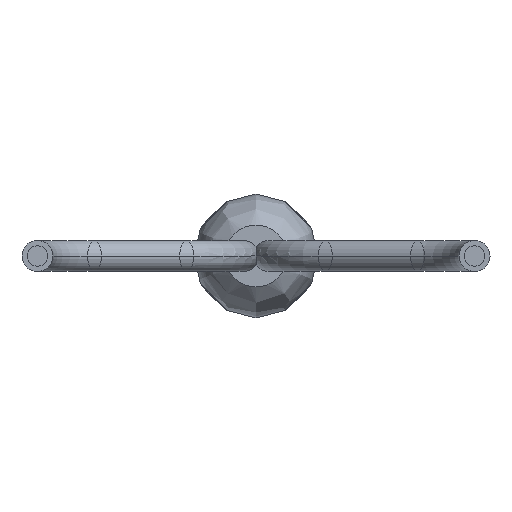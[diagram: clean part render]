
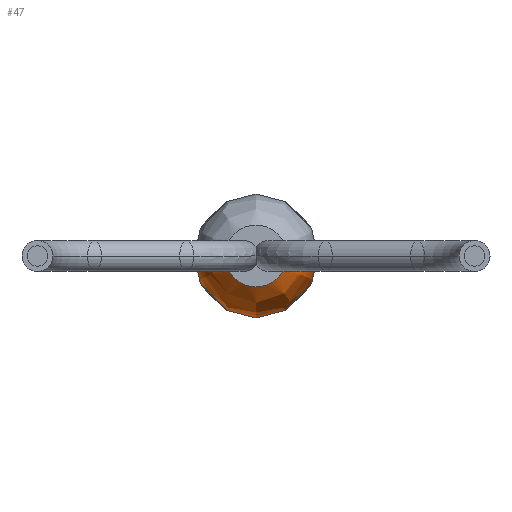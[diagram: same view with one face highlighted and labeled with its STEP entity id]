
A CAD part, left-side view. The second image highlights one B-rep face of the part: STEP entity #47.
In plain terms, the highlighted free-form (B-spline) face has degree [3, 3] with [6, 4] control points.
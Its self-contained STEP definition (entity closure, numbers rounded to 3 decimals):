
#1 = EDGE_CURVE ( 'NONE', #335, #409, #276, .T. ) ;
#11 = EDGE_CURVE ( 'NONE', #558, #335, #393, .T. ) ;
#33 = CARTESIAN_POINT ( 'NONE',  ( 1.447, 0.471, -0.942 ) ) ;
#41 = CARTESIAN_POINT ( 'NONE',  ( 0., -0.3, 0. ) ) ;
#43 = CARTESIAN_POINT ( 'NONE',  ( 0.768, -0.661, 0. ) ) ;
#47 = ADVANCED_FACE ( 'NONE', ( #260 ), #258, .F. ) ;
#101 = CARTESIAN_POINT ( 'NONE',  ( 2., 0., 0. ) ) ;
#106 = CARTESIAN_POINT ( 'NONE',  ( 1.447, 0.471, 0. ) ) ;
#139 = CARTESIAN_POINT ( 'NONE',  ( 1.986, -0.226, 0. ) ) ;
#164 = EDGE_CURVE ( 'NONE', #558, #409, #716, .T. ) ;
#174 = CARTESIAN_POINT ( 'NONE',  ( 1.986, -0.226, -0.452 ) ) ;
#176 = CARTESIAN_POINT ( 'NONE',  ( 1.986, 0.226, 0. ) ) ;
#181 = DIRECTION ( 'NONE',  ( 0., 0., 1. ) ) ;
#186 = CARTESIAN_POINT ( 'NONE',  ( 1.986, 0.226, -0.452 ) ) ;
#195 = CARTESIAN_POINT ( 'NONE',  ( 0., -0.3, -0.6 ) ) ;
#201 = CARTESIAN_POINT ( 'NONE',  ( 0.115, -0.552, 0. ) ) ;
#246 = CARTESIAN_POINT ( 'NONE',  ( 2., 0., 0. ) ) ;
#258 =( BOUNDED_SURFACE ( )  B_SPLINE_SURFACE ( 3, 3, ( 
 ( #101, #246, #818, #529 ),
 ( #805, #186, #174, #460 ),
 ( #681, #33, #758, #899 ),
 ( #472, #763, #396, #43 ),
 ( #282, #621, #557, #618 ),
 ( #485, #294, #195, #774 ) ),
 .UNSPECIFIED., .F., .F., .F. ) 
 B_SPLINE_SURFACE_WITH_KNOTS ( ( 4, 1, 1, 4 ),
 ( 4, 4 ),
 ( 0., 0.277, 0.656, 1. ),
 ( 0., 1. ),
 .UNSPECIFIED. ) 
 GEOMETRIC_REPRESENTATION_ITEM ( )  RATIONAL_B_SPLINE_SURFACE ( (
 ( 1., 0.333, 0.333, 1.),
 ( 1., 0.333, 0.333, 1.),
 ( 1., 0.333, 0.333, 1.),
 ( 1., 0.333, 0.333, 1.),
 ( 1., 0.333, 0.333, 1.),
 ( 1., 0.333, 0.333, 1.) ) ) 
 REPRESENTATION_ITEM ( '' )  SURFACE ( )  );
#260 = FACE_OUTER_BOUND ( 'NONE', #781, .T. ) ;
#276 = CIRCLE ( 'NONE', #509, 0.3 ) ;
#282 = CARTESIAN_POINT ( 'NONE',  ( 0.115, 0.552, 0. ) ) ;
#294 = CARTESIAN_POINT ( 'NONE',  ( 0., 0.3, -0.6 ) ) ;
#335 = VERTEX_POINT ( 'NONE', #660 ) ;
#344 = ORIENTED_EDGE ( 'NONE', *, *, #11, .F. ) ;
#378 = ORIENTED_EDGE ( 'NONE', *, *, #1, .F. ) ;
#393 = B_SPLINE_CURVE_WITH_KNOTS ( 'NONE', 3,
 ( #806, #176, #106, #811, #601, #746 ),
 .UNSPECIFIED., .F., .F.,
 ( 4, 1, 1, 4 ),
 ( 0., 0.277, 0.656, 1. ),
 .UNSPECIFIED. ) ;
#396 = CARTESIAN_POINT ( 'NONE',  ( 0.768, -0.661, -1.322 ) ) ;
#409 = VERTEX_POINT ( 'NONE', #451 ) ;
#451 = CARTESIAN_POINT ( 'NONE',  ( 0., -0.3, 0. ) ) ;
#460 = CARTESIAN_POINT ( 'NONE',  ( 1.986, -0.226, 0. ) ) ;
#472 = CARTESIAN_POINT ( 'NONE',  ( 0.768, 0.661, 0. ) ) ;
#485 = CARTESIAN_POINT ( 'NONE',  ( 0., 0.3, 0. ) ) ;
#509 = AXIS2_PLACEMENT_3D ( 'NONE', #530, #587, #181 ) ;
#526 = ORIENTED_EDGE ( 'NONE', *, *, #164, .T. ) ;
#529 = CARTESIAN_POINT ( 'NONE',  ( 2., 0., 0. ) ) ;
#530 = CARTESIAN_POINT ( 'NONE',  ( 0., 0., 0. ) ) ;
#556 = CARTESIAN_POINT ( 'NONE',  ( 1.447, -0.471, 0. ) ) ;
#557 = CARTESIAN_POINT ( 'NONE',  ( 0.115, -0.552, -1.104 ) ) ;
#558 = VERTEX_POINT ( 'NONE', #783 ) ;
#587 = DIRECTION ( 'NONE',  ( -1., 0., 0. ) ) ;
#601 = CARTESIAN_POINT ( 'NONE',  ( 0.115, 0.552, 0. ) ) ;
#618 = CARTESIAN_POINT ( 'NONE',  ( 0.115, -0.552, 0. ) ) ;
#621 = CARTESIAN_POINT ( 'NONE',  ( 0.115, 0.552, -1.104 ) ) ;
#660 = CARTESIAN_POINT ( 'NONE',  ( 0., 0.3, 0. ) ) ;
#681 = CARTESIAN_POINT ( 'NONE',  ( 1.447, 0.471, 0. ) ) ;
#716 = B_SPLINE_CURVE_WITH_KNOTS ( 'NONE', 3,
 ( #912, #139, #556, #838, #201, #41 ),
 .UNSPECIFIED., .F., .F.,
 ( 4, 1, 1, 4 ),
 ( 0., 0.277, 0.656, 1. ),
 .UNSPECIFIED. ) ;
#746 = CARTESIAN_POINT ( 'NONE',  ( 0., 0.3, 0. ) ) ;
#758 = CARTESIAN_POINT ( 'NONE',  ( 1.447, -0.471, -0.942 ) ) ;
#763 = CARTESIAN_POINT ( 'NONE',  ( 0.768, 0.661, -1.322 ) ) ;
#774 = CARTESIAN_POINT ( 'NONE',  ( 0., -0.3, 0. ) ) ;
#781 = EDGE_LOOP ( 'NONE', ( #344, #526, #378 ) ) ;
#783 = CARTESIAN_POINT ( 'NONE',  ( 2., 0., 0. ) ) ;
#805 = CARTESIAN_POINT ( 'NONE',  ( 1.986, 0.226, 0. ) ) ;
#806 = CARTESIAN_POINT ( 'NONE',  ( 2., 0., 0. ) ) ;
#811 = CARTESIAN_POINT ( 'NONE',  ( 0.768, 0.661, 0. ) ) ;
#818 = CARTESIAN_POINT ( 'NONE',  ( 2., 0., 0. ) ) ;
#838 = CARTESIAN_POINT ( 'NONE',  ( 0.768, -0.661, 0. ) ) ;
#899 = CARTESIAN_POINT ( 'NONE',  ( 1.447, -0.471, 0. ) ) ;
#912 = CARTESIAN_POINT ( 'NONE',  ( 2., 0., 0. ) ) ;
